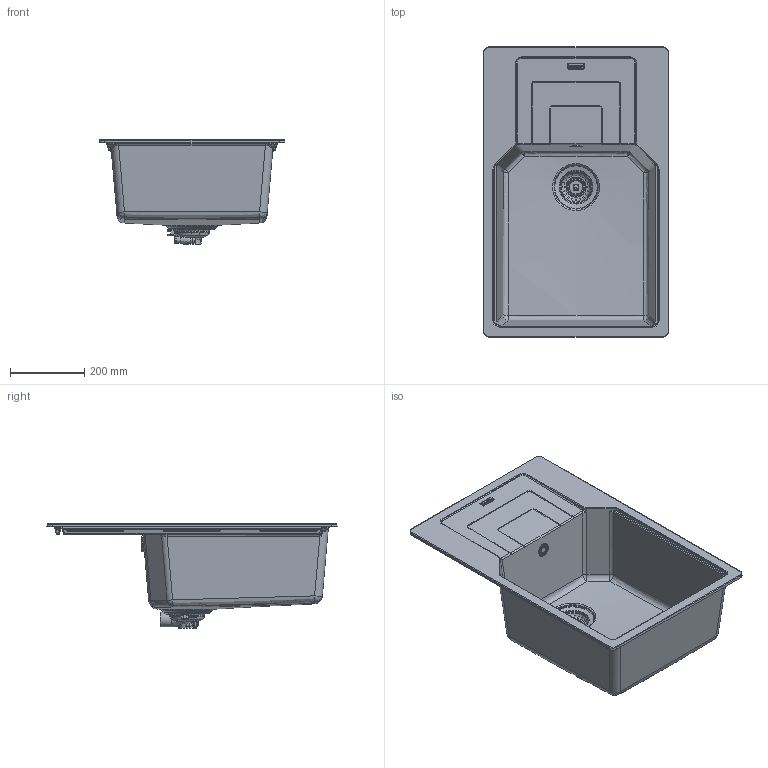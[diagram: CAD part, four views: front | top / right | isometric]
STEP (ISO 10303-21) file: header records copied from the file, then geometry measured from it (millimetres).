
FILE_DESCRIPTION(/* description */ (''),/* implementation_level */ '2;1');
FILE_NAME(/* name */ '3D001_Sinks_Urban_UBG-611-78L',/* time_stamp */ '2024-07-01T10:44:09+02:00',/* author */ (''),/* organization */ (''),/* preprocessor_version */ 'ST-DEVELOPER v19.2',/* originating_system */ 'Rhino 8.7',/* authorisation */ '');
FILE_SCHEMA (('CONFIG_CONTROL_DESIGN'));
Products named in the file (2): Document; Blocco 06
Bounding box: 500 x 780 x 280.3 mm (x, y, z)
Surface area: 1524834.1 mm2
Topology: 26 solids, 35 shells, 3158 faces, 8411 edges, 5267 vertices
Faces by surface type: bspline 1265, plane 1104, cylinder 789
Full cylindrical faces by diameter (mm): 3.242 x1, 4 x1, 4.5 x2, 4.7 x1, 4.85 x1, 5.2 x1, 5.25 x1, 5.85 x2, 6 x4, 6.2 x1, 8 x1, 8.25 x1, 12 x1, 12.5 x1, 12.6 x1, 13.743 x1, 14.3 x1, 16.941 x1, 17.853 x1, 25 x2, 27.5 x1, 31 x1, 35 x2, 36 x1, 36.5 x2, 39 x1, 39.5 x1, 42 x2, 47 x1, 48 x1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
Entity records: 191645 total; most frequent: CARTESIAN_POINT 104817, ORIENTED_EDGE 16598, EDGE_CURVE 8351, DIRECTION 7381, B_SPLINE_CURVE_WITH_KNOTS 5333, VERTEX_POINT 5268, AXIS2_PLACEMENT_3D 4637, EDGE_LOOP 3330
